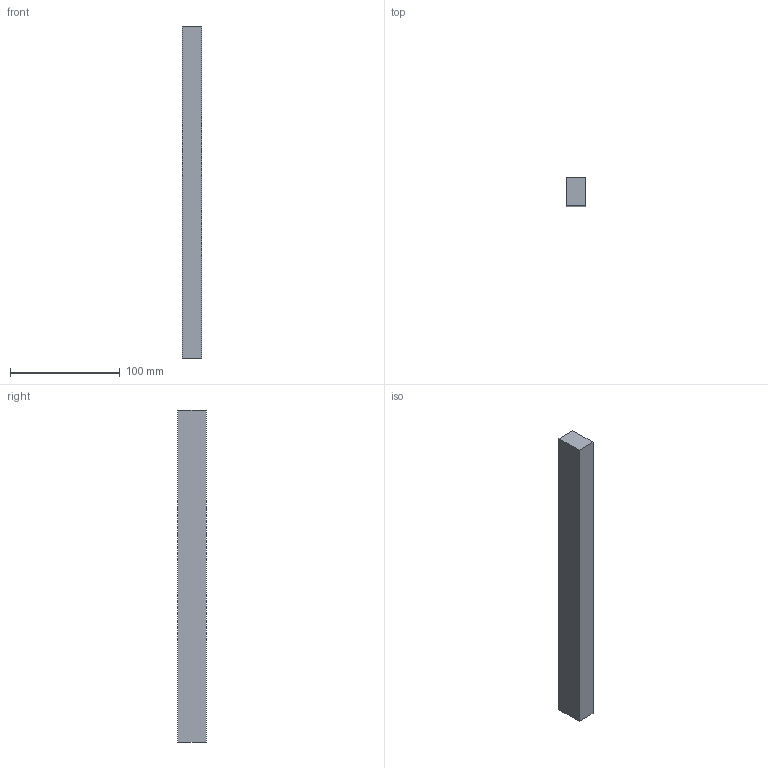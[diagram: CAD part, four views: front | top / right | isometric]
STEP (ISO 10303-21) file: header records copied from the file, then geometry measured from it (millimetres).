
FILE_DESCRIPTION(('Open CASCADE Model'),'2;1');
FILE_NAME('Open CASCADE Shape Model','2026-09-19T23:46:40',('Author'),( 'Open CASCADE'),'Open CASCADE STEP processor 7.9','Open CASCADE 7.9' ,'Unknown');
FILE_SCHEMA(('AUTOMOTIVE_DESIGN { 1 0 10303 214 1 1 1 1 }'));
Length unit declared in the file: millimetre
Products named in the file (1): Open CASCADE STEP translator 7.9 68
Bounding box: 18 x 26 x 303 mm (x, y, z)
Volume: 141804 mm3; surface area: 27600 mm2
Topology: 1 solids, 1 shells, 6 faces, 12 edges, 8 vertices
Faces by surface type: plane 6
Entity records: 322 total; most frequent: CARTESIAN_POINT 51, DIRECTION 50, LINE 36, VECTOR 36, ORIENTED_EDGE 24, PCURVE 24, DEFINITIONAL_REPRESENTATION 24, EDGE_CURVE 12
